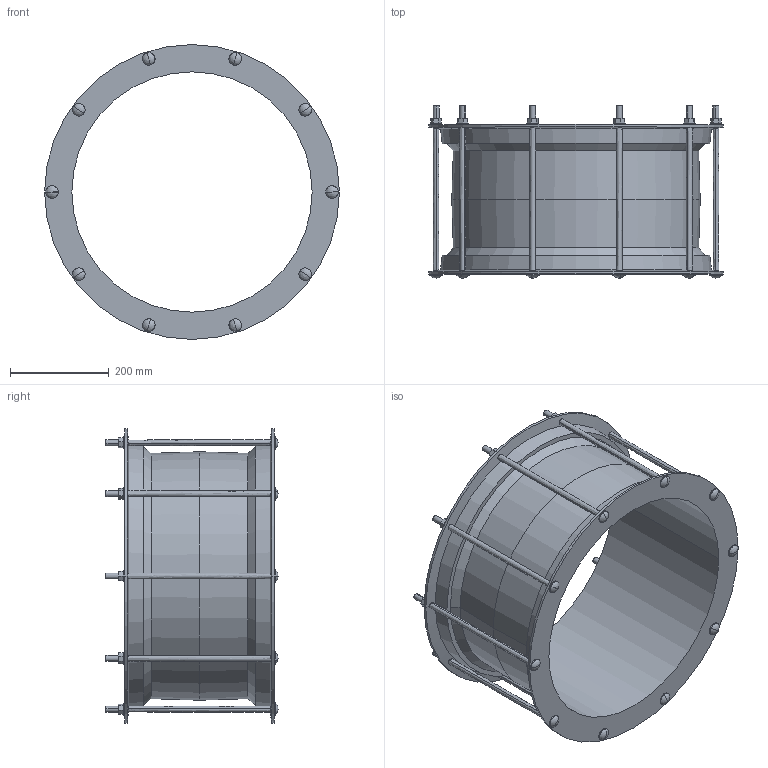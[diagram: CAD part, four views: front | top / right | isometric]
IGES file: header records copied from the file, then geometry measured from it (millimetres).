
Start section:  PTC IGES file: 467_484.igs
Global section: file name: 467_484.igs; native system: Creo Parametric by PTC Inc.; preprocessor: 2016130; author: mfairey; organization: Unknown; date: 20181218.122357; units: millimetre
Bounding box: 596 x 348 x 596 mm (x, y, z)
Surface area: 1386577.5 mm2 (no closed solid volume)
Topology: 0 solids, 0 shells, 216 faces, 1028 edges, 1008 vertices
Faces by surface type: revolution 122, bspline 94
